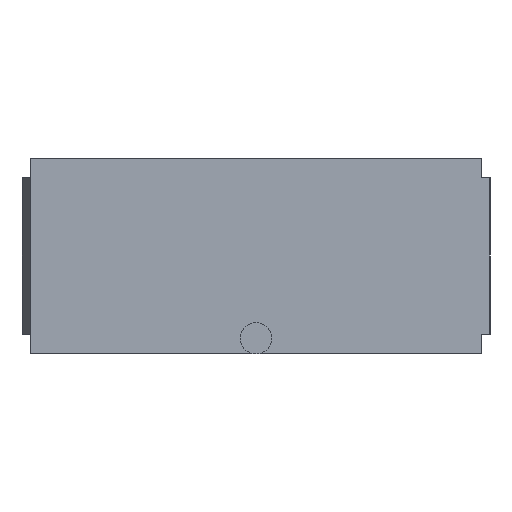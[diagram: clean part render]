
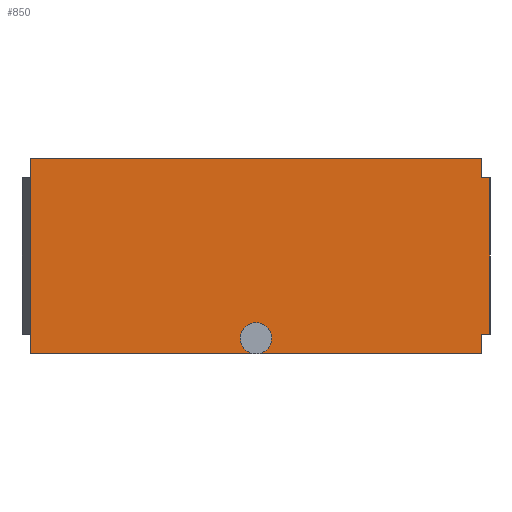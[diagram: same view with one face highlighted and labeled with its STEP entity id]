
A CAD part, left-side view. The second image highlights one B-rep face of the part: STEP entity #850.
In plain terms, the highlighted planar face has unit normal (-1, 0, 0).
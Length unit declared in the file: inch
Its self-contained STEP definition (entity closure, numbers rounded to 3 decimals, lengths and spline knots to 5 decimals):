
#7 = CARTESIAN_POINT ( 'NONE',  ( 0., 1.4925, 0.1 ) ) ;
#12 = CARTESIAN_POINT ( 'NONE',  ( 0., 0.053, 1.25 ) ) ;
#14 = LINE ( 'NONE', #769, #762 ) ;
#29 = ORIENTED_EDGE ( 'NONE', *, *, #168, .F. ) ;
#35 = ORIENTED_EDGE ( 'NONE', *, *, #647, .T. ) ;
#47 = DIRECTION ( 'NONE',  ( 0., 0., -1. ) ) ;
#65 = LINE ( 'NONE', #890, #490 ) ;
#70 = EDGE_CURVE ( 'NONE', #726, #703, #888, .T. ) ;
#71 = VECTOR ( 'NONE', #315, 39.37008 ) ;
#82 = CARTESIAN_POINT ( 'NONE',  ( 0., 2.933, 1.25 ) ) ;
#98 = DIRECTION ( 'NONE',  ( 0., 0., 1. ) ) ;
#120 = VECTOR ( 'NONE', #751, 39.37008 ) ;
#142 = DIRECTION ( 'NONE',  ( -1., 0., 0. ) ) ;
#146 = AXIS2_PLACEMENT_3D ( 'NONE', #419, #887, #539 ) ;
#148 = CIRCLE ( 'NONE', #198, 0.1 ) ;
#153 = CARTESIAN_POINT ( 'NONE',  ( 0., 1.4925, 0.1 ) ) ;
#154 = DIRECTION ( 'NONE',  ( 0., 0., 1. ) ) ;
#168 = EDGE_CURVE ( 'NONE', #684, #710, #614, .T. ) ;
#171 = EDGE_CURVE ( 'NONE', #499, #703, #576, .T. ) ;
#172 = LINE ( 'NONE', #82, #396 ) ;
#176 = AXIS2_PLACEMENT_3D ( 'NONE', #153, #142, #208 ) ;
#195 = VECTOR ( 'NONE', #858, 39.37008 ) ;
#198 = AXIS2_PLACEMENT_3D ( 'NONE', #7, #608, #154 ) ;
#199 = CARTESIAN_POINT ( 'NONE',  ( 0., 1.4925, 0. ) ) ;
#208 = DIRECTION ( 'NONE',  ( 0., 0., 1. ) ) ;
#222 = CARTESIAN_POINT ( 'NONE',  ( 0., 0., 1.125 ) ) ;
#226 = CARTESIAN_POINT ( 'NONE',  ( 0., 0.053, 0.125 ) ) ;
#230 = CARTESIAN_POINT ( 'NONE',  ( 0., 0., 1.25 ) ) ;
#236 = ORIENTED_EDGE ( 'NONE', *, *, #308, .T. ) ;
#239 = VERTEX_POINT ( 'NONE', #488 ) ;
#255 = EDGE_CURVE ( 'NONE', #726, #239, #65, .T. ) ;
#256 = CARTESIAN_POINT ( 'NONE',  ( 0., 0., 1.25 ) ) ;
#267 = ORIENTED_EDGE ( 'NONE', *, *, #255, .T. ) ;
#294 = CARTESIAN_POINT ( 'NONE',  ( 0., 0.053, 1.25 ) ) ;
#308 = EDGE_CURVE ( 'NONE', #392, #684, #14, .T. ) ;
#315 = DIRECTION ( 'NONE',  ( 0., 0., 1. ) ) ;
#335 = LINE ( 'NONE', #380, #545 ) ;
#336 = VECTOR ( 'NONE', #780, 39.37008 ) ;
#345 = VERTEX_POINT ( 'NONE', #12 ) ;
#356 = PLANE ( 'NONE',  #146 ) ;
#371 = VERTEX_POINT ( 'NONE', #483 ) ;
#372 = CARTESIAN_POINT ( 'NONE',  ( 0., 0., 0.125 ) ) ;
#380 = CARTESIAN_POINT ( 'NONE',  ( 0., 0.053, 0. ) ) ;
#392 = VERTEX_POINT ( 'NONE', #693 ) ;
#396 = VECTOR ( 'NONE', #865, 39.37008 ) ;
#416 = EDGE_CURVE ( 'NONE', #572, #499, #335, .T. ) ;
#419 = CARTESIAN_POINT ( 'NONE',  ( 0., 0., 1.25 ) ) ;
#432 = ORIENTED_EDGE ( 'NONE', *, *, #171, .T. ) ;
#440 = ORIENTED_EDGE ( 'NONE', *, *, #591, .F. ) ;
#456 = EDGE_LOOP ( 'NONE', ( #236, #661, #29, #537, #787, #432, #732, #267, #35, #440, #523 ) ) ;
#483 = CARTESIAN_POINT ( 'NONE',  ( 0., 2.933, 1.25 ) ) ;
#488 = CARTESIAN_POINT ( 'NONE',  ( 0., 0.053, 1.125 ) ) ;
#490 = VECTOR ( 'NONE', #697, 39.37008 ) ;
#499 = VERTEX_POINT ( 'NONE', #521 ) ;
#508 = VECTOR ( 'NONE', #47, 39.37008 ) ;
#521 = CARTESIAN_POINT ( 'NONE',  ( 0., 0.053, 0.125 ) ) ;
#523 = ORIENTED_EDGE ( 'NONE', *, *, #831, .T. ) ;
#537 = ORIENTED_EDGE ( 'NONE', *, *, #547, .T. ) ;
#539 = DIRECTION ( 'NONE',  ( 0., 0., -1. ) ) ;
#545 = VECTOR ( 'NONE', #98, 39.37008 ) ;
#547 = EDGE_CURVE ( 'NONE', #684, #572, #701, .T. ) ;
#553 = FACE_OUTER_BOUND ( 'NONE', #456, .T. ) ;
#572 = VERTEX_POINT ( 'NONE', #733 ) ;
#576 = LINE ( 'NONE', #226, #120 ) ;
#591 = EDGE_CURVE ( 'NONE', #371, #345, #674, .T. ) ;
#608 = DIRECTION ( 'NONE',  ( -1., 0., 0. ) ) ;
#614 = CIRCLE ( 'NONE', #176, 0.1 ) ;
#647 = EDGE_CURVE ( 'NONE', #239, #345, #911, .T. ) ;
#661 = ORIENTED_EDGE ( 'NONE', *, *, #891, .F. ) ;
#674 = LINE ( 'NONE', #256, #336 ) ;
#682 = DIRECTION ( 'NONE',  ( 0., -1., 0. ) ) ;
#684 = VERTEX_POINT ( 'NONE', #199 ) ;
#693 = CARTESIAN_POINT ( 'NONE',  ( 0., 2.933, 0. ) ) ;
#697 = DIRECTION ( 'NONE',  ( 0., 1., 0. ) ) ;
#701 = LINE ( 'NONE', #789, #195 ) ;
#703 = VERTEX_POINT ( 'NONE', #372 ) ;
#710 = VERTEX_POINT ( 'NONE', #845 ) ;
#726 = VERTEX_POINT ( 'NONE', #222 ) ;
#732 = ORIENTED_EDGE ( 'NONE', *, *, #70, .F. ) ;
#733 = CARTESIAN_POINT ( 'NONE',  ( 0., 0.053, 0. ) ) ;
#751 = DIRECTION ( 'NONE',  ( 0., -1., 0. ) ) ;
#762 = VECTOR ( 'NONE', #682, 39.37008 ) ;
#769 = CARTESIAN_POINT ( 'NONE',  ( 0., 0., 0. ) ) ;
#780 = DIRECTION ( 'NONE',  ( 0., -1., 0. ) ) ;
#787 = ORIENTED_EDGE ( 'NONE', *, *, #416, .T. ) ;
#789 = CARTESIAN_POINT ( 'NONE',  ( 0., 0., 0. ) ) ;
#831 = EDGE_CURVE ( 'NONE', #371, #392, #172, .T. ) ;
#845 = CARTESIAN_POINT ( 'NONE',  ( 0., 1.4925, 0.2 ) ) ;
#850 = ADVANCED_FACE ( 'NONE', ( #553 ), #356, .F. ) ;
#858 = DIRECTION ( 'NONE',  ( 0., -1., 0. ) ) ;
#865 = DIRECTION ( 'NONE',  ( 0., 0., -1. ) ) ;
#887 = DIRECTION ( 'NONE',  ( 1., 0., 0. ) ) ;
#888 = LINE ( 'NONE', #230, #508 ) ;
#890 = CARTESIAN_POINT ( 'NONE',  ( 0., 0.053, 1.125 ) ) ;
#891 = EDGE_CURVE ( 'NONE', #710, #684, #148, .T. ) ;
#911 = LINE ( 'NONE', #294, #71 ) ;
